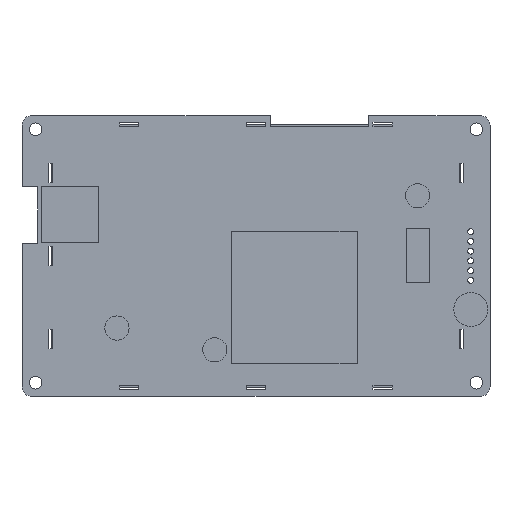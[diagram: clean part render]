
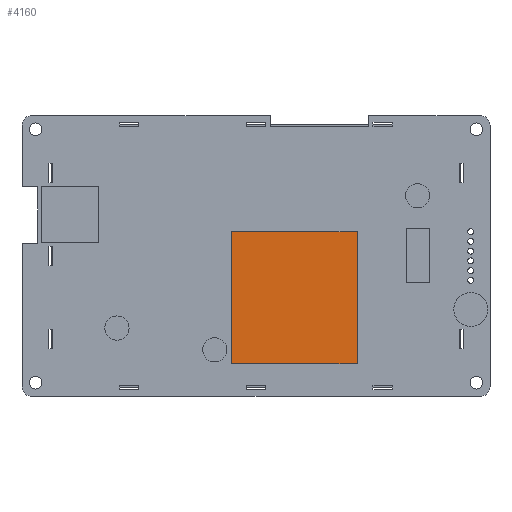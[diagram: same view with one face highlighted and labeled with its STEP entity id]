
A CAD part, front view. The second image highlights one B-rep face of the part: STEP entity #4160.
In plain terms, the highlighted planar face has unit normal (0, -1, 0).
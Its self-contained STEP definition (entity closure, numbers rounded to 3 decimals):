
#1471=DIRECTION('',(-1.,0.,0.));
#1472=VECTOR('',#1471,32.766);
#1473=CARTESIAN_POINT('',(26.34,-6.9,6.312));
#1474=LINE('',#1473,#1472);
#1483=DIRECTION('',(0.,0.,1.));
#1484=VECTOR('',#1483,34.417);
#1485=CARTESIAN_POINT('',(26.34,-6.9,-28.105));
#1486=LINE('',#1485,#1484);
#1491=DIRECTION('',(1.,0.,0.));
#1492=VECTOR('',#1491,32.766);
#1493=CARTESIAN_POINT('',(-6.426,-6.9,-28.105));
#1494=LINE('',#1493,#1492);
#1495=DIRECTION('',(0.,0.,-1.));
#1496=VECTOR('',#1495,34.417);
#1497=CARTESIAN_POINT('',(-6.426,-6.9,6.312));
#1498=LINE('',#1497,#1496);
#1961=CARTESIAN_POINT('',(26.34,-6.9,6.312));
#1962=VERTEX_POINT('',#1961);
#1963=CARTESIAN_POINT('',(-6.426,-6.9,6.312));
#1964=VERTEX_POINT('',#1963);
#1965=CARTESIAN_POINT('',(26.34,-6.9,-28.105));
#1966=VERTEX_POINT('',#1965);
#1967=CARTESIAN_POINT('',(-6.426,-6.9,-28.105));
#1968=VERTEX_POINT('',#1967);
#4149=CARTESIAN_POINT('',(9.957,-6.9,-10.897));
#4150=DIRECTION('',(0.,1.,0.));
#4151=DIRECTION('',(-1.,0.,0.));
#4152=AXIS2_PLACEMENT_3D('',#4149,#4150,#4151);
#4153=PLANE('',#4152);
#4154=ORIENTED_EDGE('',*,*,#4101,.F.);
#4155=ORIENTED_EDGE('',*,*,#4116,.F.);
#4156=ORIENTED_EDGE('',*,*,#4130,.F.);
#4157=ORIENTED_EDGE('',*,*,#4143,.F.);
#4158=EDGE_LOOP('',(#4154,#4155,#4156,#4157));
#4159=FACE_OUTER_BOUND('',#4158,.F.);
#4101=EDGE_CURVE('',#1962,#1964,#1474,.T.);
#4116=EDGE_CURVE('',#1966,#1962,#1486,.T.);
#4130=EDGE_CURVE('',#1968,#1966,#1494,.T.);
#4143=EDGE_CURVE('',#1964,#1968,#1498,.T.);
#4160=ADVANCED_FACE('',(#4159),#4153,.F.);
